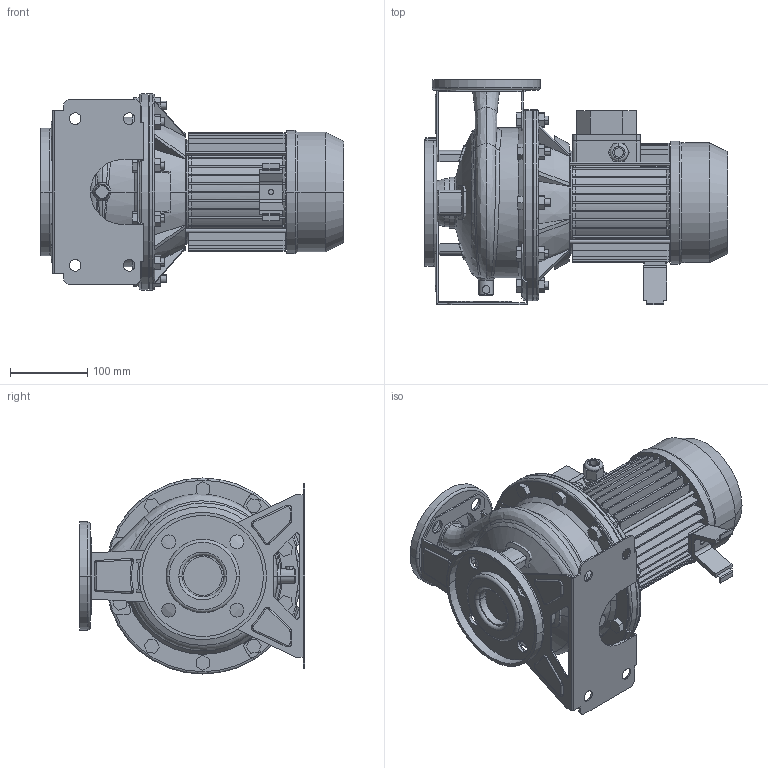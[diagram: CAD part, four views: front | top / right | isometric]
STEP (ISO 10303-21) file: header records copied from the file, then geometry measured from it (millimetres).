
FILE_DESCRIPTION((''),'2;1');
FILE_NAME('3M4_32-160_0_37_ASM','2016-09-16T',('rosa'),('"Ebara Pumps Europe +39.444.706811"'),'PRO/ENGINEER BY PARAMETRIC TECHNOLOGY CORPORATION, 2012130','PRO/ENGINEER BY PARAMETRIC TECHNOLOGY CORPORATION, 2012130','');
FILE_SCHEMA(('AUTOMOTIVE_DESIGN { 1 0 10303 214 1 1 1 1 }'));
Length unit declared in the file: millimetre
Products named in the file (12): CORPO_32-160_AF0; ASP_32-160; FLANGIA_DIN_50; MAND_32-160; FLANGIA_DIN_32; BASE_3M_32-160; CORPO_SALDATO_32-160_ASM; SUPPORTO_3M_190_80; MEC_80; SOSTEGNO_72004; 72015; 3M4_32-160_0_37_ASM
Assembly tree (11 placements, depth 3):
  3M4_32-160_0_37_ASM
    CORPO_SALDATO_32-160_ASM
      CORPO_32-160_AF0
      ASP_32-160
      FLANGIA_DIN_50
      MAND_32-160
      FLANGIA_DIN_32
      BASE_3M_32-160
    SUPPORTO_3M_190_80
    MEC_80
    SOSTEGNO_72004
    72015
Bounding box: 393 x 292 x 254 mm (x, y, z)
Volume: 6847126.4 mm3; surface area: 918643.5 mm2
Topology: 13 solids, 13 shells, 1131 faces, 2852 edges, 1809 vertices
Faces by surface type: plane 592, cylinder 330, cone 92, torus 68, bspline 43, sphere 6
Entity records: 48312 total; most frequent: CARTESIAN_POINT 10472, DIRECTION 5856, ORIENTED_EDGE 5704, EDGE_CURVE 2852, PRESENTATION_STYLE_ASSIGNMENT 2780, STYLED_ITEM 2780, CURVE_STYLE 2768, AXIS2_PLACEMENT_3D 2151
